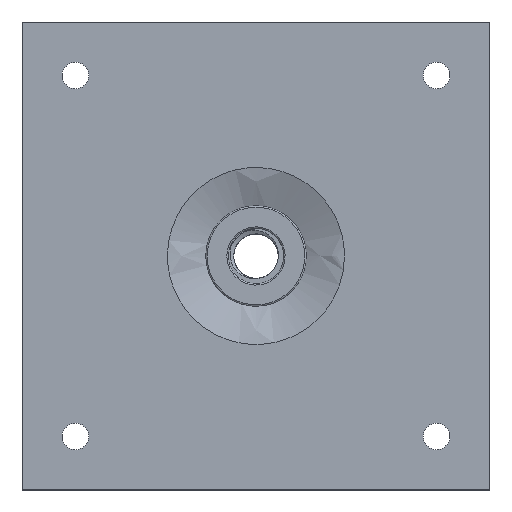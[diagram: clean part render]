
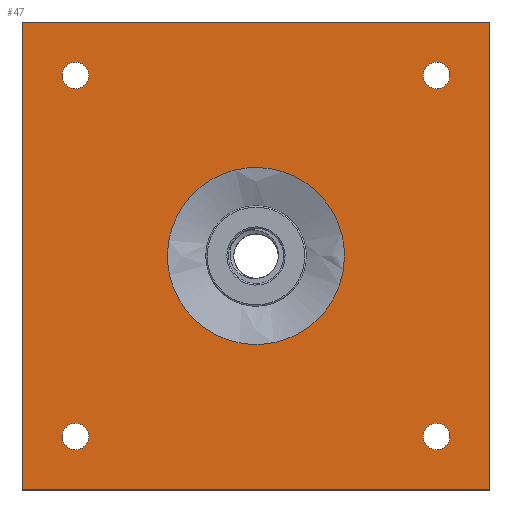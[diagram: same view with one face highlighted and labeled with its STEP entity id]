
A CAD part, top view. The second image highlights one B-rep face of the part: STEP entity #47.
In plain terms, the highlighted planar face has unit normal (0, 0, -1).
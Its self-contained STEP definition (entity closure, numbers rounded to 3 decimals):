
#23=FACE_BOUND('',#144,.T.);
#24=FACE_BOUND('',#145,.T.);
#25=FACE_BOUND('',#146,.T.);
#26=FACE_BOUND('',#147,.T.);
#27=FACE_BOUND('',#148,.T.);
#47=ADVANCED_FACE('',(#95,#23,#24,#25,#26,#27),#753,.T.);
#95=FACE_OUTER_BOUND('',#143,.T.);
#143=EDGE_LOOP('',(#235,#236,#237,#238));
#144=EDGE_LOOP('',(#239));
#145=EDGE_LOOP('',(#240));
#146=EDGE_LOOP('',(#241));
#147=EDGE_LOOP('',(#242));
#148=EDGE_LOOP('',(#243));
#235=ORIENTED_EDGE('',*,*,#440,.T.);
#236=ORIENTED_EDGE('',*,*,#444,.T.);
#237=ORIENTED_EDGE('',*,*,#447,.T.);
#238=ORIENTED_EDGE('',*,*,#450,.T.);
#239=ORIENTED_EDGE('',*,*,#427,.F.);
#240=ORIENTED_EDGE('',*,*,#453,.T.);
#241=ORIENTED_EDGE('',*,*,#455,.T.);
#242=ORIENTED_EDGE('',*,*,#457,.T.);
#243=ORIENTED_EDGE('',*,*,#459,.T.);
#427=EDGE_CURVE('',#669,#669,#594,.T.);
#440=EDGE_CURVE('',#676,#677,#553,.T.);
#444=EDGE_CURVE('',#677,#680,#557,.T.);
#447=EDGE_CURVE('',#680,#682,#560,.T.);
#450=EDGE_CURVE('',#682,#676,#563,.T.);
#453=EDGE_CURVE('',#685,#685,#603,.T.);
#455=EDGE_CURVE('',#687,#687,#605,.T.);
#457=EDGE_CURVE('',#689,#689,#607,.T.);
#459=EDGE_CURVE('',#691,#691,#609,.T.);
#553=B_SPLINE_CURVE_WITH_KNOTS('',1,(#1211,#1212),.UNSPECIFIED.,.F.,.F.,
(2,2),(0.,77.661),.UNSPECIFIED.);
#557=B_SPLINE_CURVE_WITH_KNOTS('',1,(#1219,#1220),.UNSPECIFIED.,.F.,.F.,
(2,2),(77.661,155.322),.UNSPECIFIED.);
#560=B_SPLINE_CURVE_WITH_KNOTS('',1,(#1225,#1226),.UNSPECIFIED.,.F.,.F.,
(2,2),(155.322,232.983),.UNSPECIFIED.);
#563=B_SPLINE_CURVE_WITH_KNOTS('',1,(#1231,#1232),.UNSPECIFIED.,.F.,.F.,
(2,2),(232.983,310.644),.UNSPECIFIED.);
#594=(
BOUNDED_CURVE()
B_SPLINE_CURVE(2,(#1128,#1129,#1130,#1131,#1132,#1133,#1134,#1135,#1136),
 .UNSPECIFIED.,.T.,.F.)
B_SPLINE_CURVE_WITH_KNOTS((3,2,2,2,3),(0.,20.791,41.583,
62.374,83.165),.UNSPECIFIED.)
CURVE()
GEOMETRIC_REPRESENTATION_ITEM()
RATIONAL_B_SPLINE_CURVE((1.,0.707,1.,0.707,1.,0.707,
1.,0.707,1.))
REPRESENTATION_ITEM('')
);
#603=(
BOUNDED_CURVE()
B_SPLINE_CURVE(2,(#1244,#1245,#1246,#1247,#1248,#1249,#1250,#1251,#1252),
 .UNSPECIFIED.,.T.,.F.)
B_SPLINE_CURVE_WITH_KNOTS((3,2,2,2,3),(-12.566,-9.425,
-6.283,-3.142,0.),.UNSPECIFIED.)
CURVE()
GEOMETRIC_REPRESENTATION_ITEM()
RATIONAL_B_SPLINE_CURVE((1.,0.707,1.,0.707,1.,0.707,
1.,0.707,1.))
REPRESENTATION_ITEM('')
);
#605=(
BOUNDED_CURVE()
B_SPLINE_CURVE(2,(#1262,#1263,#1264,#1265,#1266,#1267,#1268,#1269,#1270),
 .UNSPECIFIED.,.T.,.F.)
B_SPLINE_CURVE_WITH_KNOTS((3,2,2,2,3),(0.,3.142,6.283,
9.425,12.566),.UNSPECIFIED.)
CURVE()
GEOMETRIC_REPRESENTATION_ITEM()
RATIONAL_B_SPLINE_CURVE((1.,0.707,1.,0.707,1.,0.707,
1.,0.707,1.))
REPRESENTATION_ITEM('')
);
#607=(
BOUNDED_CURVE()
B_SPLINE_CURVE(2,(#1280,#1281,#1282,#1283,#1284,#1285,#1286,#1287,#1288),
 .UNSPECIFIED.,.T.,.F.)
B_SPLINE_CURVE_WITH_KNOTS((3,2,2,2,3),(0.,3.142,6.283,
9.425,12.566),.UNSPECIFIED.)
CURVE()
GEOMETRIC_REPRESENTATION_ITEM()
RATIONAL_B_SPLINE_CURVE((1.,0.707,1.,0.707,1.,0.707,
1.,0.707,1.))
REPRESENTATION_ITEM('')
);
#609=(
BOUNDED_CURVE()
B_SPLINE_CURVE(2,(#1298,#1299,#1300,#1301,#1302,#1303,#1304,#1305,#1306),
 .UNSPECIFIED.,.T.,.F.)
B_SPLINE_CURVE_WITH_KNOTS((3,2,2,2,3),(-12.566,-9.425,
-6.283,-3.142,0.),.UNSPECIFIED.)
CURVE()
GEOMETRIC_REPRESENTATION_ITEM()
RATIONAL_B_SPLINE_CURVE((1.,0.707,1.,0.707,1.,0.707,
1.,0.707,1.))
REPRESENTATION_ITEM('')
);
#669=VERTEX_POINT('',#1104);
#676=VERTEX_POINT('',#1111);
#677=VERTEX_POINT('',#1112);
#680=VERTEX_POINT('',#1115);
#682=VERTEX_POINT('',#1117);
#685=VERTEX_POINT('',#1120);
#687=VERTEX_POINT('',#1122);
#689=VERTEX_POINT('',#1124);
#691=VERTEX_POINT('',#1126);
#753=PLANE('',#887);
#887=AXIS2_PLACEMENT_3D('',#1102,#922,$);
#922=DIRECTION('',(0.,0.,-1.));
#1102=CARTESIAN_POINT('',(35.,-35.,0.));
#1104=CARTESIAN_POINT('',(13.236,0.,0.));
#1111=CARTESIAN_POINT('',(35.,-35.,0.));
#1112=CARTESIAN_POINT('',(-35.,-35.,0.));
#1115=CARTESIAN_POINT('',(-35.,35.,0.));
#1117=CARTESIAN_POINT('',(35.,35.,0.));
#1120=CARTESIAN_POINT('',(-29.,27.,0.));
#1122=CARTESIAN_POINT('',(29.,27.,0.));
#1124=CARTESIAN_POINT('',(-29.,-27.,0.));
#1126=CARTESIAN_POINT('',(29.,-27.,0.));
#1128=CARTESIAN_POINT('',(13.236,0.,0.));
#1129=CARTESIAN_POINT('',(13.236,-13.236,0.));
#1130=CARTESIAN_POINT('',(0.,-13.236,0.));
#1131=CARTESIAN_POINT('',(-13.236,-13.236,0.));
#1132=CARTESIAN_POINT('',(-13.236,0.,0.));
#1133=CARTESIAN_POINT('',(-13.236,13.236,0.));
#1134=CARTESIAN_POINT('',(0.,13.236,0.));
#1135=CARTESIAN_POINT('',(13.236,13.236,0.));
#1136=CARTESIAN_POINT('',(13.236,0.,0.));
#1211=CARTESIAN_POINT('',(35.,-35.,0.));
#1212=CARTESIAN_POINT('',(-35.,-35.,0.));
#1219=CARTESIAN_POINT('',(-35.,-35.,0.));
#1220=CARTESIAN_POINT('',(-35.,35.,0.));
#1225=CARTESIAN_POINT('',(-35.,35.,0.));
#1226=CARTESIAN_POINT('',(35.,35.,0.));
#1231=CARTESIAN_POINT('',(35.,35.,0.));
#1232=CARTESIAN_POINT('',(35.,-35.,0.));
#1244=CARTESIAN_POINT('',(-29.,27.,0.));
#1245=CARTESIAN_POINT('',(-29.,25.,0.));
#1246=CARTESIAN_POINT('',(-27.,25.,0.));
#1247=CARTESIAN_POINT('',(-25.,25.,0.));
#1248=CARTESIAN_POINT('',(-25.,27.,0.));
#1249=CARTESIAN_POINT('',(-25.,29.,0.));
#1250=CARTESIAN_POINT('',(-27.,29.,0.));
#1251=CARTESIAN_POINT('',(-29.,29.,0.));
#1252=CARTESIAN_POINT('',(-29.,27.,0.));
#1262=CARTESIAN_POINT('',(29.,27.,0.));
#1263=CARTESIAN_POINT('',(29.,29.,0.));
#1264=CARTESIAN_POINT('',(27.,29.,0.));
#1265=CARTESIAN_POINT('',(25.,29.,0.));
#1266=CARTESIAN_POINT('',(25.,27.,0.));
#1267=CARTESIAN_POINT('',(25.,25.,0.));
#1268=CARTESIAN_POINT('',(27.,25.,0.));
#1269=CARTESIAN_POINT('',(29.,25.,0.));
#1270=CARTESIAN_POINT('',(29.,27.,0.));
#1280=CARTESIAN_POINT('',(-29.,-27.,0.));
#1281=CARTESIAN_POINT('',(-29.,-29.,0.));
#1282=CARTESIAN_POINT('',(-27.,-29.,0.));
#1283=CARTESIAN_POINT('',(-25.,-29.,0.));
#1284=CARTESIAN_POINT('',(-25.,-27.,0.));
#1285=CARTESIAN_POINT('',(-25.,-25.,0.));
#1286=CARTESIAN_POINT('',(-27.,-25.,0.));
#1287=CARTESIAN_POINT('',(-29.,-25.,0.));
#1288=CARTESIAN_POINT('',(-29.,-27.,0.));
#1298=CARTESIAN_POINT('',(29.,-27.,0.));
#1299=CARTESIAN_POINT('',(29.,-25.,0.));
#1300=CARTESIAN_POINT('',(27.,-25.,0.));
#1301=CARTESIAN_POINT('',(25.,-25.,0.));
#1302=CARTESIAN_POINT('',(25.,-27.,0.));
#1303=CARTESIAN_POINT('',(25.,-29.,0.));
#1304=CARTESIAN_POINT('',(27.,-29.,0.));
#1305=CARTESIAN_POINT('',(29.,-29.,0.));
#1306=CARTESIAN_POINT('',(29.,-27.,0.));
